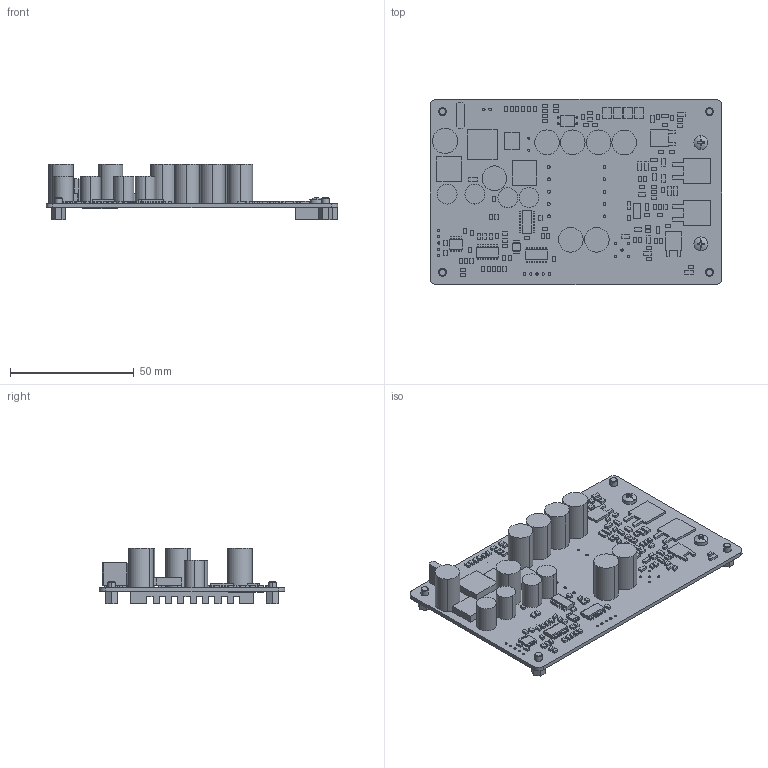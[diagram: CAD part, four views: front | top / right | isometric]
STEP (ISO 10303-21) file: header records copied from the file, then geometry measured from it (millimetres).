
FILE_DESCRIPTION (( 'STEP AP203' ), '1' );
FILE_NAME ('E80.C1K-H.STEP', '2025-07-15T08:40:58', ( 'China' ), ( 'Home' ), 'SwSTEP 2.0', 'SolidWorks 2016', '' );
FILE_SCHEMA (( 'CONFIG_CONTROL_DESIGN' ));
Length unit declared in the file: millimetre
Products named in the file (1): E80.C1K-H
Bounding box: 118 x 75 x 22.6 mm (x, y, z)
Surface area: 31081.6 mm2 (no closed solid volume)
Topology: 0 solids, 211 shells, 1171 faces, 2995 edges, 2068 vertices
Faces by surface type: plane 1022, cylinder 137, cone 8, sphere 4
Entity records: 34208 total; most frequent: CARTESIAN_POINT 6323, DIRECTION 5683, ORIENTED_EDGE 4900, EDGE_CURVE 2995, LINE 2603, VECTOR 2603, VERTEX_POINT 2068, AXIS2_PLACEMENT_3D 1540
